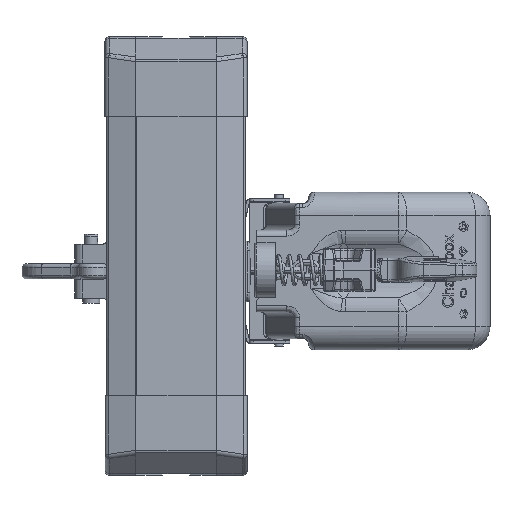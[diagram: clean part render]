
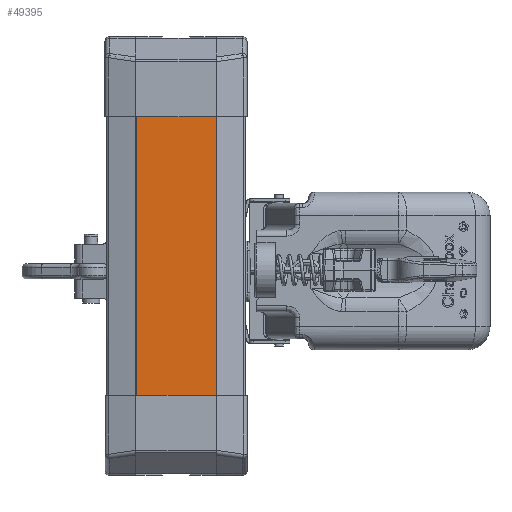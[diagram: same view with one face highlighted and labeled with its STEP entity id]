
A CAD part, left-side view. The second image highlights one B-rep face of the part: STEP entity #49395.
In plain terms, the highlighted planar face has unit normal (-1, 0, 0).
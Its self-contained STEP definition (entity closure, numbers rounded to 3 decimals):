
#1244=LINE('',#72027,#5279);
#1297=LINE('',#72186,#5332);
#1300=LINE('',#72196,#5335);
#1305=LINE('',#72210,#5340);
#5279=VECTOR('',#57886,1000.);
#5332=VECTOR('',#57977,1000.);
#5335=VECTOR('',#57986,1000.);
#5340=VECTOR('',#58001,1000.);
#11778=ORIENTED_EDGE('',*,*,#26789,.T.);
#11779=ORIENTED_EDGE('',*,*,#26796,.T.);
#11780=ORIENTED_EDGE('',*,*,#26784,.T.);
#11781=ORIENTED_EDGE('',*,*,#26716,.T.);
#26716=EDGE_CURVE('',#34243,#34242,#1244,.F.);
#26784=EDGE_CURVE('',#34297,#34243,#1297,.T.);
#26789=EDGE_CURVE('',#34242,#34300,#1300,.F.);
#26796=EDGE_CURVE('',#34300,#34297,#1305,.F.);
#34242=VERTEX_POINT('',#72026);
#34243=VERTEX_POINT('',#72028);
#34297=VERTEX_POINT('',#72187);
#34300=VERTEX_POINT('',#72195);
#40945=EDGE_LOOP('',(#11778,#11779,#11780,#11781));
#44526=FACE_BOUND('',#40945,.T.);
#48084=PLANE('',#52778);
#49395=ADVANCED_FACE('',(#44526),#48084,.F.);
#52778=AXIS2_PLACEMENT_3D('',#72209,#57999,#58000);
#57886=DIRECTION('',(0.,-1.,0.));
#57977=DIRECTION('',(0.,0.,1.));
#57986=DIRECTION('',(0.,0.,1.));
#57999=DIRECTION('',(1.,0.,0.));
#58000=DIRECTION('',(0.,0.,-1.));
#58001=DIRECTION('',(0.,1.,0.));
#72026=CARTESIAN_POINT('',(-162.892,-624.187,488.927));
#72027=CARTESIAN_POINT('',(-162.892,-706.393,488.927));
#72028=CARTESIAN_POINT('',(-162.892,-708.297,488.927));
#72186=CARTESIAN_POINT('',(-162.892,-708.297,-330.073));
#72187=CARTESIAN_POINT('',(-162.892,-708.297,147.427));
#72195=CARTESIAN_POINT('',(-162.892,-624.187,147.427));
#72196=CARTESIAN_POINT('',(-162.892,-624.187,-330.073));
#72209=CARTESIAN_POINT('',(-162.892,-706.393,-325.073));
#72210=CARTESIAN_POINT('',(-162.892,-706.393,147.427));
